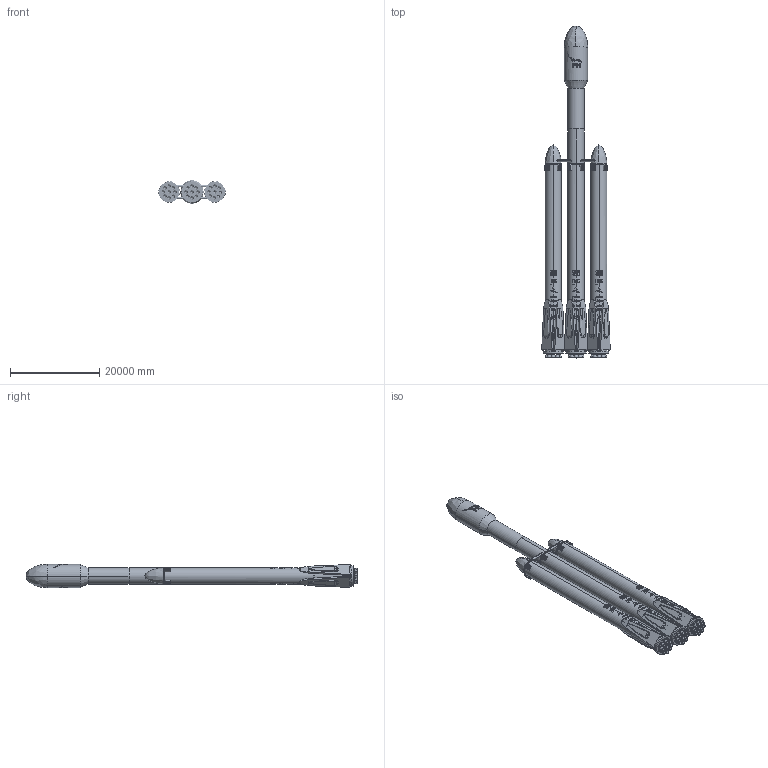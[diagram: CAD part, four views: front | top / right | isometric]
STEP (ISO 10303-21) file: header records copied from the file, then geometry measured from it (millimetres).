
FILE_DESCRIPTION (( 'STEP AP203' ), '1' );
FILE_NAME ('Falcon Heavy STEP.STEP', '2018-03-06T02:52:11', ( '' ), ( '' ), 'SwSTEP 2.0', 'SolidWorks 2016', '' );
FILE_SCHEMA (( 'CONFIG_CONTROL_DESIGN' ));
Length unit declared in the file: inch
Products named in the file (22): Interstage Adapter; Left Side Booster Assembly; Merlin Interstage; Falcon 9 v2 Grid Fin; Falcon Heavy Left Booster; Landing Gear Assembly; Interstage Assembly; Side Booster Caps; Grid Fin Assembly; Falcon 9 v2 Grid Fin Axl; Landing Gear; Falcon 9 v2 Fairing; First Stage Assembly; Falcon 9 v2 Interstage; Landing Gear Adapter; Booster Rods; Falcon Heavy STEP; Grid Fin Section; Merlin 1D Engine; Right Side Booster Assembly; Landing Gear Pin; Falcon 9 v2 Grid Fin Adapter
Assembly tree (79 placements, depth 4):
  Falcon Heavy STEP
    First Stage Assembly
      Falcon Heavy Left Booster
      Merlin 1D Engine  x9
      Grid Fin Section
      Grid Fin Assembly  x4
        Falcon 9 v2 Grid Fin Adapter
        Falcon 9 v2 Grid Fin Axl
        Falcon 9 v2 Grid Fin
      Interstage Adapter
    Right Side Booster Assembly
      Falcon Heavy Left Booster
      Grid Fin Section
      Merlin 1D Engine  x9
      Grid Fin Assembly  x4
        Falcon 9 v2 Grid Fin Adapter
        Falcon 9 v2 Grid Fin Axl
        Falcon 9 v2 Grid Fin
      Side Booster Caps
    Left Side Booster Assembly
      Falcon Heavy Left Booster
      Grid Fin Section
      Merlin 1D Engine  x9
      Grid Fin Assembly  x4
        Falcon 9 v2 Grid Fin Adapter
        Falcon 9 v2 Grid Fin Axl
        Falcon 9 v2 Grid Fin
      Side Booster Caps
    Booster Rods  x4
    Interstage Assembly
      Falcon 9 v2 Interstage
      Merlin Interstage
      Falcon 9 v2 Fairing  x2
    Landing Gear Assembly  x3
      Landing Gear Adapter
      Landing Gear
      Landing Gear Pin
Bounding box: 15312.16 x 74274.17 x 5232.66 mm (x, y, z)
Volume: 1700955864037.9 mm3; surface area: 3578669332.6 mm2
Topology: 95 solids, 119 shells, 7524 faces, 20104 edges, 12437 vertices
Faces by surface type: plane 3770, bspline 1504, cylinder 1404, cone 552, torus 198, sphere 96
Entity records: 47397 total; most frequent: CARTESIAN_POINT 21003, ORIENTED_EDGE 4938, DIRECTION 4338, EDGE_CURVE 2469, VERTEX_POINT 1591, AXIS2_PLACEMENT_3D 1550, LINE 1238, VECTOR 1238
